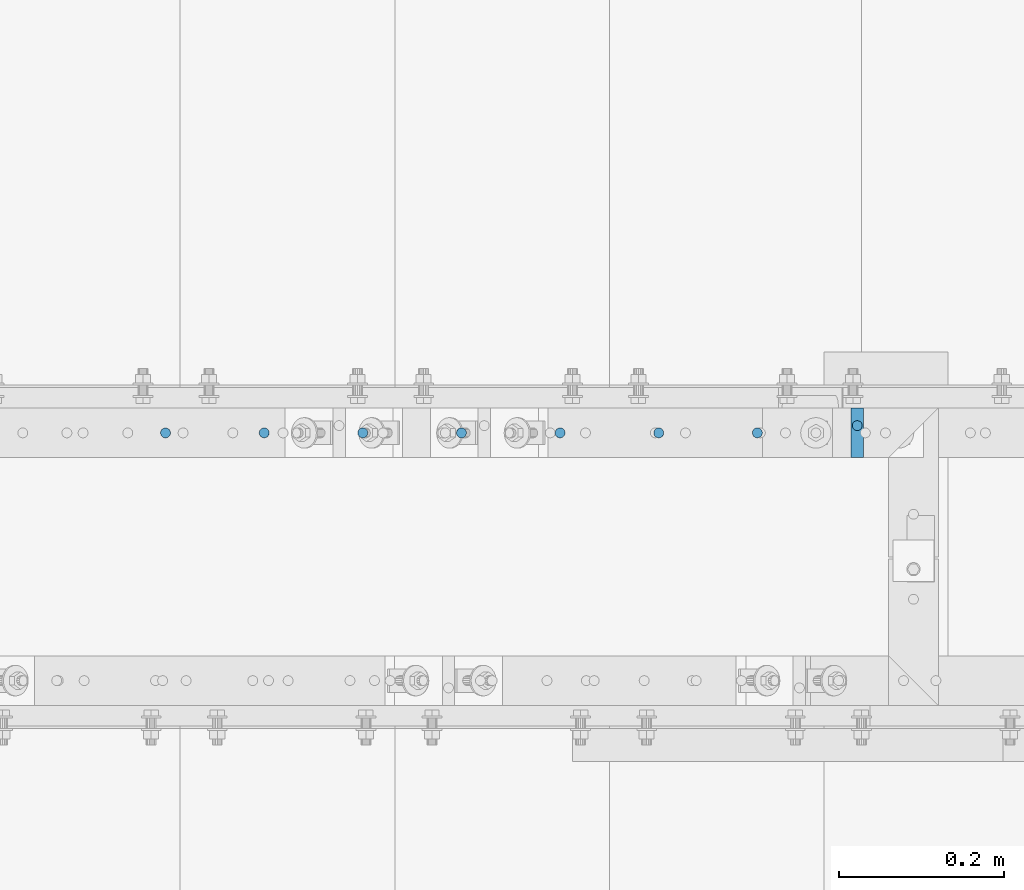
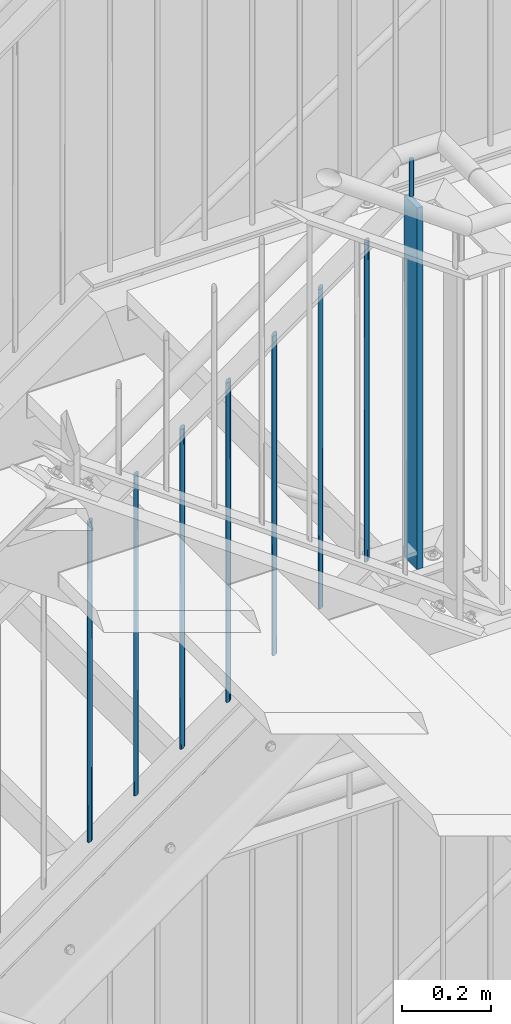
# One storey, part 57 of 825: 9 columns.
"""IFC2X3 building model written with IfcOpenShell, lengths in millimetres."""

from ifc_helpers import new_model, entity, si_unit, converted_unit, frame, origin, origin_with_axes, origin_2d, place, context, project, spatial, rectangle, circle, extrude, clip, halfspace, material, element, save


model = new_model("IFC2X3")

# Units and contexts
model_context = context("Model", 3, precision=1e-09, world=origin_with_axes())
ifc_project = project(units=[si_unit("LENGTHUNIT", "METRE", prefix="MILLI"), si_unit("AREAUNIT", "SQUARE_METRE"), si_unit("VOLUMEUNIT", "CUBIC_METRE"), converted_unit("PLANEANGLEUNIT", "DEGREE", entity("IfcPlaneAngleMeasure", 0.01745329), si_unit("PLANEANGLEUNIT", "RADIAN"), dimensions=[0, 0, 0, 0, 0, 0, 0])], contexts=[model_context])

# Site, building, storey
site_placement = place(None, origin_with_axes())
site = spatial("IfcSite", under=ifc_project, at=site_placement, Name="Cnopf'sche Kinderklinik", CompositionType="ELEMENT")
building_placement = place(site_placement, origin_with_axes())
building = spatial("IfcBuilding", under=site, at=building_placement, Name="Struktur 1", CompositionType="ELEMENT")
storey_placement = place(building_placement, origin_with_axes())
storey = spatial("IfcBuildingStorey", under=building, at=storey_placement, Name="Default Storey", CompositionType="ELEMENT", Elevation=0.0)

# Columns
ifc_material = material(Name="S235JR")
column_1_placement = place(None, frame((7096.714402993, 6091.736971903, 17563.723292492), z_axis=(0.0, 0.0, 1.0), x_axis=(1.0, 0.0, 0.0)))
element("IfcColumn", 1, at=column_1_placement, inside=storey, material=ifc_material, Name="Railing_Post_Landing#2", ObjectType="Railing_Post_Landing#2", context=model_context, shape_type="Clipping", body=[
    clip(clip(extrude(rectangle(XDim=15.0, YDim=60.0, at=origin_2d()), origin(), (0.0, 0.0, -1.0), 1070.646584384), halfspace(frame((-7096.714402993, -6091.736971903, -1019.722292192), z_axis=(0.0, 0.0, 1.0), x_axis=(1.0, 0.0, 0.0)), True)), halfspace(frame((-7096.714402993, -6091.736971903, -30.924292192), z_axis=(0.0, 0.0, -1.0), x_axis=(-1.0, 0.0, 0.0)), True)),
])
column_2_placement = place(None, frame((6259.064027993, 6091.736971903, 16961.880831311), z_axis=(0.0, 0.0, 1.0), x_axis=(1.0, 0.0, 0.0)))
element("IfcColumn", 2, at=column_2_placement, inside=storey, material=ifc_material, Name="Railing_Picket_Stair#11", ObjectType="Railing_Picket_Stair#11", context=model_context, shape_type="Clipping", body=[
    clip(clip(extrude(circle(Radius=6.0, at=origin_2d()), origin(), (0.0, 0.0, -1.0), 896.220460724), halfspace(frame((-12160.308399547, -6091.736971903, -8763.205442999), z_axis=(0.584187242, 0.0, -0.811618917), x_axis=(0.0, 1.0, 0.0)), True)), halfspace(frame((-11745.291900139, -6091.736971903, -9339.79325147), z_axis=(-0.584187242, 0.0, 0.811618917), x_axis=(0.0, -1.0, 0.0)), True)),
])
column_3_placement = place(None, frame((6378.514090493, 6091.736971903, 17047.85862353), z_axis=(0.0, 0.0, 1.0), x_axis=(1.0, 0.0, 0.0)))
element("IfcColumn", 3, at=column_3_placement, inside=storey, material=ifc_material, Name="Railing_Picket_Stair#12", ObjectType="Railing_Picket_Stair#12", context=model_context, shape_type="Clipping", body=[
    clip(clip(extrude(circle(Radius=6.0, at=origin_2d()), origin(), (0.0, 0.0, -1.0), 896.220460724), halfspace(frame((-12279.758462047, -6091.736971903, -8849.183235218), z_axis=(0.584187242, 0.0, -0.811618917), x_axis=(0.0, 1.0, 0.0)), True)), halfspace(frame((-11864.741962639, -6091.736971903, -9425.771043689), z_axis=(-0.584187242, 0.0, 0.811618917), x_axis=(0.0, -1.0, 0.0)), True)),
])
column_4_placement = place(None, frame((6497.964152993, 6091.736971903, 17133.836415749), z_axis=(0.0, 0.0, 1.0), x_axis=(1.0, 0.0, 0.0)))
element("IfcColumn", 4, at=column_4_placement, inside=storey, material=ifc_material, Name="Railing_Picket_Stair#13", ObjectType="Railing_Picket_Stair#13", context=model_context, shape_type="Clipping", body=[
    clip(clip(extrude(circle(Radius=6.0, at=origin_2d()), origin(), (0.0, 0.0, -1.0), 896.220460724), halfspace(frame((-12399.208524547, -6091.736971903, -8935.161027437), z_axis=(0.584187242, 0.0, -0.811618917), x_axis=(0.0, 1.0, 0.0)), True)), halfspace(frame((-11984.192025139, -6091.736971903, -9511.748835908), z_axis=(-0.584187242, 0.0, 0.811618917), x_axis=(0.0, -1.0, 0.0)), True)),
])
column_5_placement = place(None, frame((6617.414215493, 6091.736971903, 17219.814207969), z_axis=(0.0, 0.0, 1.0), x_axis=(1.0, 0.0, 0.0)))
element("IfcColumn", 5, at=column_5_placement, inside=storey, material=ifc_material, Name="Railing_Picket_Stair#14", ObjectType="Railing_Picket_Stair#14", context=model_context, shape_type="Clipping", body=[
    clip(clip(extrude(circle(Radius=6.0, at=origin_2d()), origin(), (0.0, 0.0, -1.0), 896.220460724), halfspace(frame((-12518.658587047, -6091.736971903, -9021.138819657), z_axis=(0.584187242, 0.0, -0.811618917), x_axis=(0.0, 1.0, 0.0)), True)), halfspace(frame((-12103.642087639, -6091.736971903, -9597.726628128), z_axis=(-0.584187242, 0.0, 0.811618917), x_axis=(0.0, -1.0, 0.0)), True)),
])
column_6_placement = place(None, frame((6736.864277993, 6091.736971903, 17305.792000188), z_axis=(0.0, 0.0, 1.0), x_axis=(1.0, 0.0, 0.0)))
element("IfcColumn", 6, at=column_6_placement, inside=storey, material=ifc_material, Name="Railing_Picket_Stair#15", ObjectType="Railing_Picket_Stair#15", context=model_context, shape_type="Clipping", body=[
    clip(clip(extrude(circle(Radius=6.0, at=origin_2d()), origin(), (0.0, 0.0, -1.0), 896.220460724), halfspace(frame((-12638.108649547, -6091.736971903, -9107.116611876), z_axis=(0.584187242, 0.0, -0.811618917), x_axis=(0.0, 1.0, 0.0)), True)), halfspace(frame((-12223.092150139, -6091.736971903, -9683.704420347), z_axis=(-0.584187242, 0.0, 0.811618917), x_axis=(0.0, -1.0, 0.0)), True)),
])
column_7_placement = place(None, frame((6856.314340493, 6091.736971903, 17391.769792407), z_axis=(0.0, 0.0, 1.0), x_axis=(1.0, 0.0, 0.0)))
element("IfcColumn", 7, at=column_7_placement, inside=storey, material=ifc_material, Name="Railing_Picket_Stair#16", ObjectType="Railing_Picket_Stair#16", context=model_context, shape_type="Clipping", body=[
    clip(clip(extrude(circle(Radius=6.0, at=origin_2d()), origin(), (0.0, 0.0, -1.0), 896.220460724), halfspace(frame((-12757.558712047, -6091.736971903, -9193.094404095), z_axis=(0.584187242, 0.0, -0.811618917), x_axis=(0.0, 1.0, 0.0)), True)), halfspace(frame((-12342.542212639, -6091.736971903, -9769.682212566), z_axis=(-0.584187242, 0.0, 0.811618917), x_axis=(0.0, -1.0, 0.0)), True)),
])
column_8_placement = place(None, frame((6975.764402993, 6091.736971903, 17477.747584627), z_axis=(0.0, 0.0, 1.0), x_axis=(1.0, 0.0, 0.0)))
element("IfcColumn", 8, at=column_8_placement, inside=storey, material=ifc_material, Name="Railing_Picket_Stair#17", ObjectType="Railing_Picket_Stair#17", context=model_context, shape_type="Clipping", body=[
    clip(clip(extrude(circle(Radius=6.0, at=origin_2d()), origin(), (0.0, 0.0, -1.0), 896.220460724), halfspace(frame((-12877.008774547, -6091.736971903, -9279.072196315), z_axis=(0.584187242, 0.0, -0.811618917), x_axis=(0.0, 1.0, 0.0)), True)), halfspace(frame((-12461.992275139, -6091.736971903, -9855.660004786), z_axis=(-0.584187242, 0.0, 0.811618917), x_axis=(0.0, -1.0, 0.0)), True)),
])
column_9_placement = place(None, frame((7096.714402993, 6100.536971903, 17651.285281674), z_axis=(0.0, 0.0, 1.0), x_axis=(0.0, -1.0, 0.0)))
element("IfcColumn", 9, at=column_9_placement, inside=storey, material=ifc_material, Name="Bar#2", ObjectType="Bar#2", context=model_context, shape_type="Clipping", body=[
    clip(clip(extrude(circle(Radius=6.0, at=origin_2d()), origin(), (0.0, 0.0, -1.0), 116.970562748), halfspace(frame((6100.536971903, -7096.714402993, -8.486281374), z_axis=(0.0, 0.0, -1.0), x_axis=(0.0, -1.0, 0.0)), True)), halfspace(frame((6100.536971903, -7096.714402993, -108.484281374), z_axis=(0.0, 0.0, 1.0), x_axis=(0.0, 1.0, 0.0)), True)),
])

save(model, "model.ifc")
